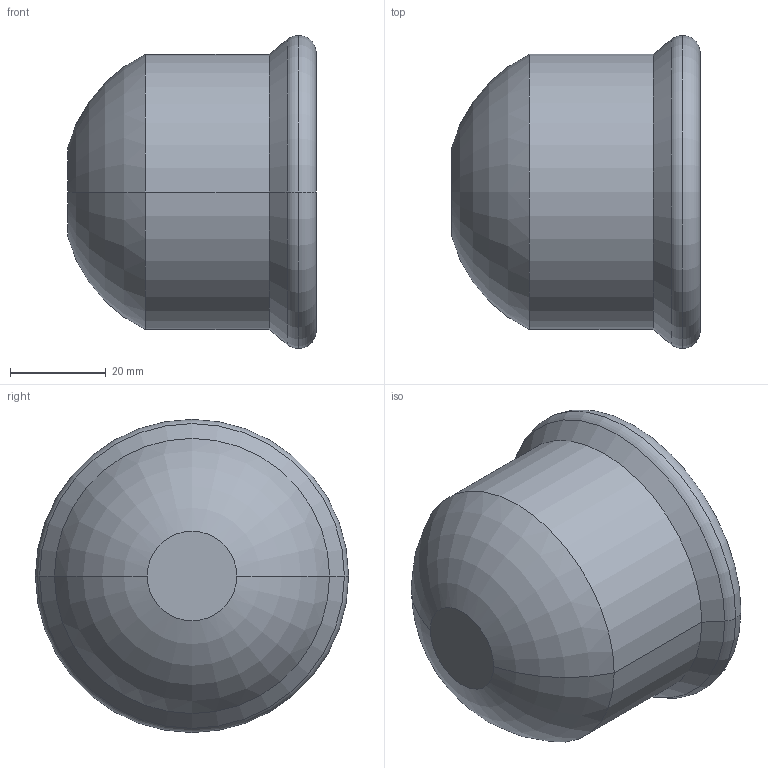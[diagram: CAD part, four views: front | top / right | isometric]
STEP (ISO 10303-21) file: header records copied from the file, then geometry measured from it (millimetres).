
FILE_DESCRIPTION(('CoCreate Modeling STEP Export'),'2;1');
FILE_NAME('C1429 54.stp','2014-11-12T16:11:10',(''),(''),'CoCreate Modeling STEP processor for AP214 (Solid Model)','CoCreate Modeling 17.00A 17-Jun-2010 (C) Parametric Technology GmbH','');
FILE_SCHEMA(('AUTOMOTIVE_DESIGN { 1 0 10303 214 1 1 1 1 }'));
Length unit declared in the file: millimetre
Products named in the file (2): C1429_54
Assembly tree (1 placements, depth 2):
  C1429_54
    C1429_54
Bounding box: 51.8 x 65.3 x 65.3 mm (x, y, z)
Volume: 36482.7 mm3; surface area: 20008.5 mm2
Topology: 1 solids, 1 shells, 21 faces, 41 edges, 25 vertices
Faces by surface type: cylinder 8, torus 6, plane 5, cone 2
Entity records: 485 total; most frequent: ORIENTED_EDGE 82, DIRECTION 74, CARTESIAN_POINT 67, EDGE_CURVE 41, AXIS2_PLACEMENT_3D 32, VERTEX_POINT 25, EDGE_LOOP 24, FACE_OUTER_BOUND 21
